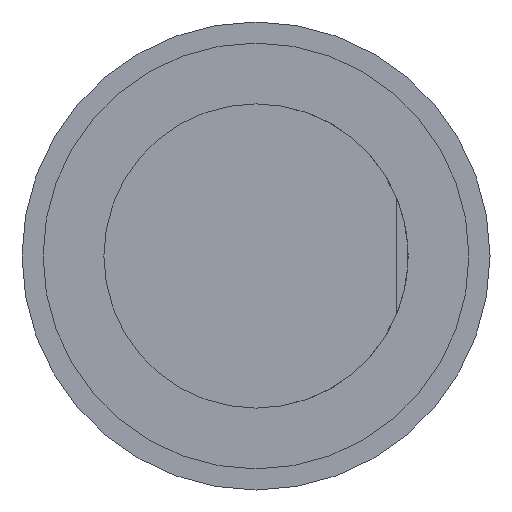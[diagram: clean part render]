
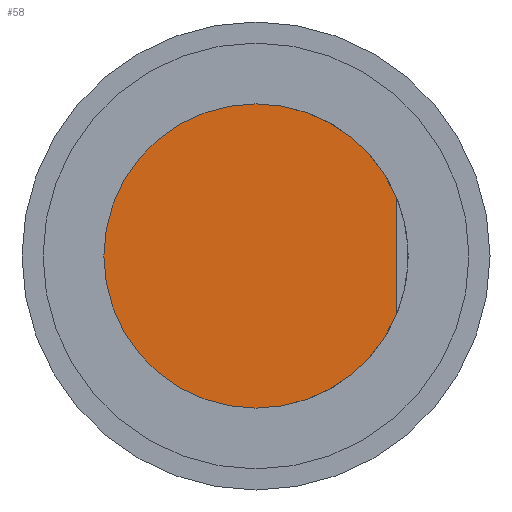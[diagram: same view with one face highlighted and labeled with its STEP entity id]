
A CAD part, front view. The second image highlights one B-rep face of the part: STEP entity #58.
In plain terms, the highlighted planar face has unit normal (0, -1, 0).
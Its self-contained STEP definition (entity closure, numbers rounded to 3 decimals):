
#3 = CARTESIAN_POINT ( 'NONE',  ( 0., -45., 6.5 ) ) ;
#7 = FACE_OUTER_BOUND ( 'NONE', #161, .T. ) ;
#26 = CARTESIAN_POINT ( 'NONE',  ( 0., -45., 0. ) ) ;
#42 = DIRECTION ( 'NONE',  ( 0., 0., 1. ) ) ;
#58 = ADVANCED_FACE ( 'NONE', ( #7 ), #467, .T. ) ;
#74 = VERTEX_POINT ( 'NONE', #327 ) ;
#75 = EDGE_CURVE ( 'NONE', #518, #74, #267, .T. ) ;
#80 = CARTESIAN_POINT ( 'NONE',  ( 6., -45., -2.5 ) ) ;
#90 = ORIENTED_EDGE ( 'NONE', *, *, #75, .T. ) ;
#97 = EDGE_CURVE ( 'NONE', #604, #74, #255, .T. ) ;
#103 = ORIENTED_EDGE ( 'NONE', *, *, #430, .F. ) ;
#119 = DIRECTION ( 'NONE',  ( 0., 0., 1. ) ) ;
#124 = DIRECTION ( 'NONE',  ( 0., 1., 0. ) ) ;
#136 = AXIS2_PLACEMENT_3D ( 'NONE', #510, #600, #421 ) ;
#161 = EDGE_LOOP ( 'NONE', ( #103, #90, #339, #394 ) ) ;
#173 = CARTESIAN_POINT ( 'NONE',  ( 0., -45., 0. ) ) ;
#176 = CIRCLE ( 'NONE', #594, 6.5 ) ;
#195 = DIRECTION ( 'NONE',  ( 0., 1., 0. ) ) ;
#226 = DIRECTION ( 'NONE',  ( 0., 1., 0. ) ) ;
#255 = CIRCLE ( 'NONE', #324, 6.5 ) ;
#267 = LINE ( 'NONE', #373, #607 ) ;
#311 = CARTESIAN_POINT ( 'NONE',  ( 0., -45., -6.5 ) ) ;
#324 = AXIS2_PLACEMENT_3D ( 'NONE', #441, #195, #522 ) ;
#327 = CARTESIAN_POINT ( 'NONE',  ( 6., -45., 2.5 ) ) ;
#339 = ORIENTED_EDGE ( 'NONE', *, *, #97, .F. ) ;
#358 = EDGE_CURVE ( 'NONE', #372, #604, #571, .T. ) ;
#372 = VERTEX_POINT ( 'NONE', #311 ) ;
#373 = CARTESIAN_POINT ( 'NONE',  ( 6., -45., 0. ) ) ;
#394 = ORIENTED_EDGE ( 'NONE', *, *, #358, .F. ) ;
#421 = DIRECTION ( 'NONE',  ( 0., 0., -1. ) ) ;
#430 = EDGE_CURVE ( 'NONE', #518, #372, #176, .T. ) ;
#441 = CARTESIAN_POINT ( 'NONE',  ( 0., -45., 0. ) ) ;
#467 = PLANE ( 'NONE',  #136 ) ;
#510 = CARTESIAN_POINT ( 'NONE',  ( 0., -45., 0. ) ) ;
#514 = AXIS2_PLACEMENT_3D ( 'NONE', #26, #124, #119 ) ;
#518 = VERTEX_POINT ( 'NONE', #80 ) ;
#522 = DIRECTION ( 'NONE',  ( 0., 0., 1. ) ) ;
#544 = DIRECTION ( 'NONE',  ( 0., 0., 1. ) ) ;
#571 = CIRCLE ( 'NONE', #514, 6.5 ) ;
#594 = AXIS2_PLACEMENT_3D ( 'NONE', #173, #226, #544 ) ;
#600 = DIRECTION ( 'NONE',  ( 0., -1., 0. ) ) ;
#604 = VERTEX_POINT ( 'NONE', #3 ) ;
#607 = VECTOR ( 'NONE', #42, 1000. ) ;
